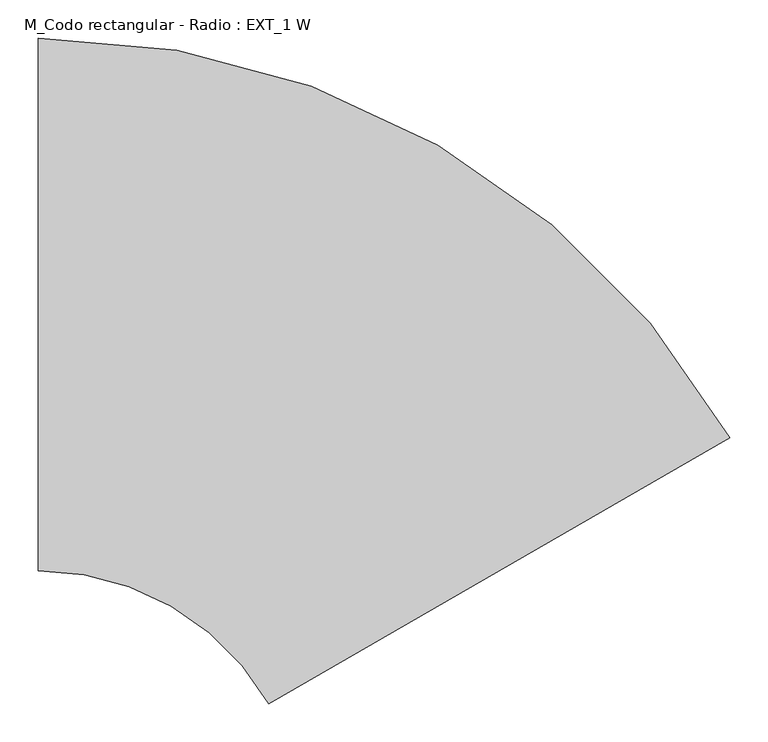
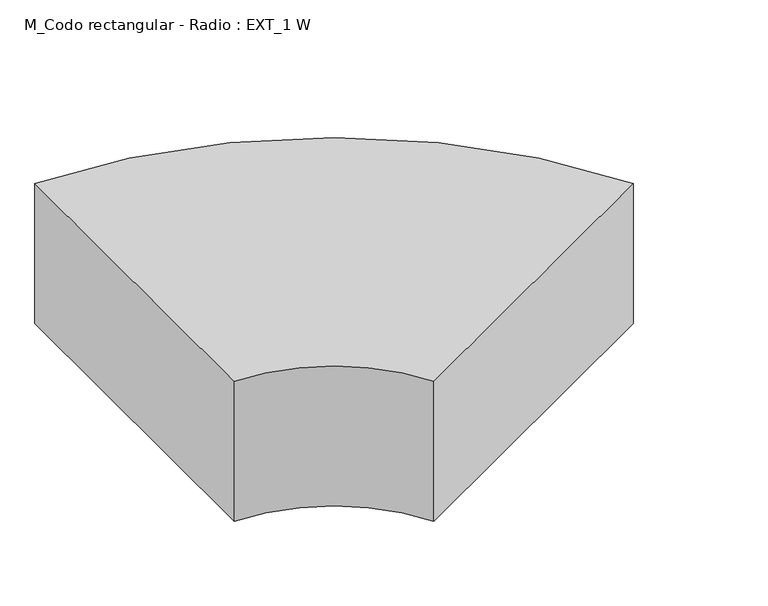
"""IFC4 building model written with IfcOpenShell, lengths in millimetres: duct fitting geometry, M_Codo rectangular - Radio : EXT_1 W."""

from ifc_helpers import new_model, si_unit, point, frame, frame_2d, origin, place, context, project, spatial, polyline, circle_curve, trimmed, segment, composite_curve, outline, extrude, source, transform, mapped, element, save


def m_codo_rectangular_radio_ext_1_w_290e05df(model_context):
    return source(origin(), model_context, "Body", "SweptSolid", [
        extrude(outline(composite_curve([segment(polyline([(505.1907047, -175.1439494), (-101.082474, -525.0479831)]), True, "CONTINUOUS"), segment(trimmed(circle_curve(frame_2d((-404.2190633, -700.0)), 350.0), [point((-101.082474, -525.0479831))], [point((-404.2190633, -350.0))], True, "CARTESIAN"), True, "CONTINUOUS"), segment(polyline([(-404.2190633, -350.0), (-404.2190633, 350.0)]), True, "CONTINUOUS"), segment(trimmed(circle_curve(frame_2d((-404.2190633, -700.0)), 1050.0), [point((-404.2190633, 350.0))], [point((505.1907047, -175.1439494))], False, "CARTESIAN"), True, "CONTINUOUS")], self_intersect=False)), frame((0.0, 0.0, -150.0), z_axis=(0.0, 0.0, 1.0), x_axis=(1.0, 0.0, 0.0)), (0.0, 0.0, 1.0), 300.0),
    ])


if __name__ == "__main__":
    model = new_model("IFC4")
    model_context = context("Model", 3, world=origin())
    ifc_project = project(units=[si_unit("LENGTHUNIT", "METRE", prefix="MILLI")], contexts=[model_context])
    site = spatial("IfcSite", under=ifc_project)
    building = spatial("IfcBuilding", under=site)
    placement = place(None, origin())
    m_codo_rectangular_radio_ext_1_w_shape = m_codo_rectangular_radio_ext_1_w_290e05df(model_context)
    element("IfcDuctFitting", 1, ObjectType="M_Codo rectangular - Radio : EXT_1 W", at=placement, inside=building, context=model_context, shape_type="MappedRepresentation", body=[
        mapped(m_codo_rectangular_radio_ext_1_w_shape, transform((0.0, 0.0, 0.0), x_axis=(1.0, 0.0, 0.0), y_axis=(0.0, 1.0, 0.0), z_axis=(0.0, 0.0, 1.0))),
    ])
    save(model, "model.ifc")
